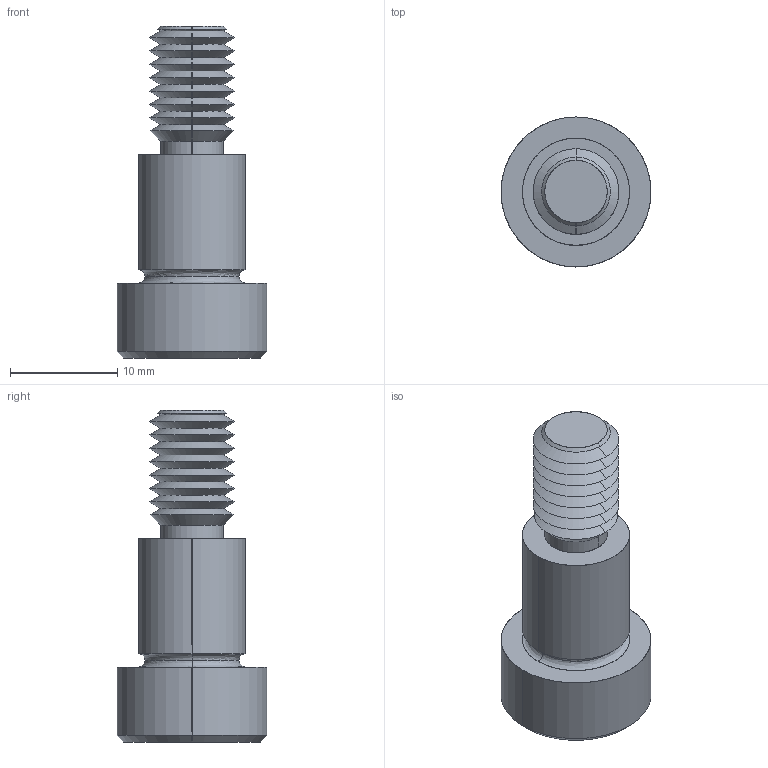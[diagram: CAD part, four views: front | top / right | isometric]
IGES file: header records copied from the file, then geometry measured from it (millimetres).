
Start section: SolidWorks IGES file using analytic representation for surfaces
Global section: file name: C:\Users\IanO\Documents\Temp Folder\GENERAL\SCREW REVISION\P0130_v2\P0130.T5_v2_20220106_IGES\P0130.100-012-T5.igs; native system: SolidWorks 2019; preprocessor: SolidWorks 2019; author: IanO; date: 220106.224116; units: millimetre
Bounding box: 14 x 14 x 31 mm (x, y, z)
Surface area: 1553.6 mm2 (no closed solid volume)
Topology: 0 solids, 0 shells, 72 faces, 548 edges, 546 vertices
Faces by surface type: revolution 52, bspline 20
